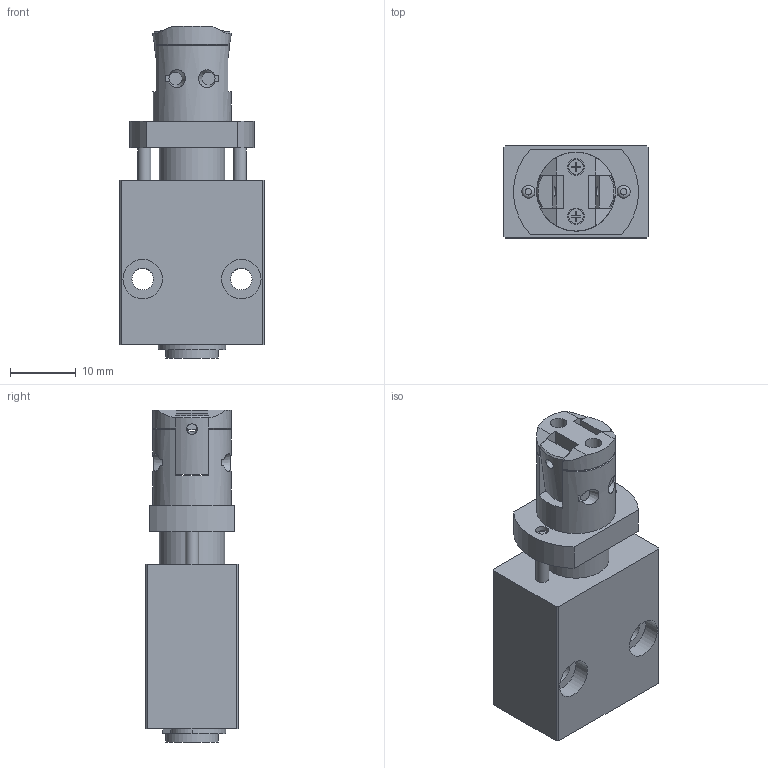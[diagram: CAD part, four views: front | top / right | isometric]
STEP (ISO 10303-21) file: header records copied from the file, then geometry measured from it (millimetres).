
FILE_DESCRIPTION (( 'STEP AP214' ), '1' );
FILE_NAME ('1228.STEP', '2024-06-20T12:59:21', ( '' ), ( '' ), 'SwSTEP 2.0', 'SolidWorks 2022', '' );
FILE_SCHEMA (( 'AUTOMOTIVE_DESIGN' ));
Length unit declared in the file: millimetre
Products named in the file (1): 1228
Bounding box: 22 x 14 x 50.5 mm (x, y, z)
Volume: 9551.1 mm3; surface area: 7048.9 mm2
Topology: 12 solids, 12 shells, 160 faces, 366 edges, 242 vertices
Faces by surface type: plane 108, cylinder 39, cone 9, torus 4
Full cylindrical faces by diameter (mm): 1.6 x2, 2 x14, 2.25 x2, 2.5 x2, 3.3 x2, 4.2 x1, 6 x2, 6.5 x1, 8 x2, 10 x2, 12 x1
Entity records: 4978 total; most frequent: CARTESIAN_POINT 1023, DIRECTION 710, ORIENTED_EDGE 636, EDGE_CURVE 318, AXIS2_PLACEMENT_3D 259, EDGE_LOOP 238, VERTEX_POINT 230, FACE_OUTER_BOUND 195
